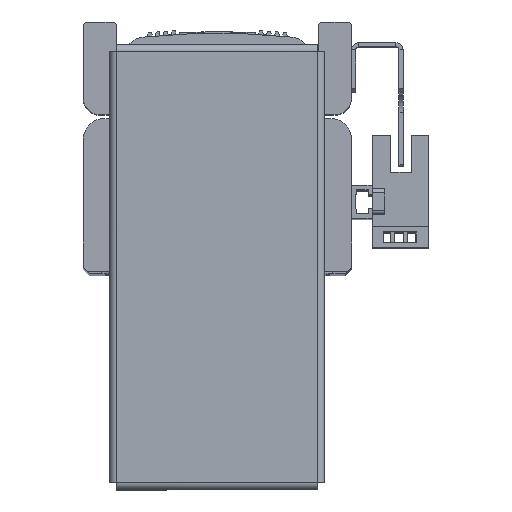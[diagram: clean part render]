
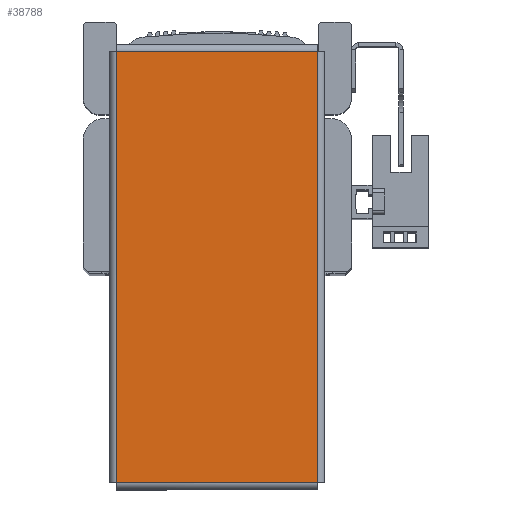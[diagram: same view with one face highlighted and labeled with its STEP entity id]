
A CAD part, top view. The second image highlights one B-rep face of the part: STEP entity #38788.
In plain terms, the highlighted planar face has unit normal (0, 0, 1) as drawn and (0, 0, -1) by its records, which use the part's own axes.
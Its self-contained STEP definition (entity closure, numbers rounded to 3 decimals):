
#1502 = AXIS2_PLACEMENT_3D ( 'NONE', #21986, #21997, #22007 ) ;
#3088 = VERTEX_POINT ( 'NONE', #27663 ) ;
#3095 = VERTEX_POINT ( 'NONE', #27684 ) ;
#3104 = VERTEX_POINT ( 'NONE', #27624 ) ;
#3112 = VERTEX_POINT ( 'NONE', #27647 ) ;
#9509 = EDGE_CURVE ( 'NONE', #3095, #3104, #34178, .T. ) ;
#9525 = EDGE_CURVE ( 'NONE', #3088, #3095, #34249, .T. ) ;
#9526 = EDGE_CURVE ( 'NONE', #3112, #3088, #34191, .T. ) ;
#9535 = EDGE_CURVE ( 'NONE', #3104, #3112, #34162, .T. ) ;
#16012 = ORIENTED_EDGE ( 'NONE', *, *, #9525, .T. ) ;
#16051 = ORIENTED_EDGE ( 'NONE', *, *, #9535, .T. ) ;
#16066 = ORIENTED_EDGE ( 'NONE', *, *, #9526, .T. ) ;
#16071 = ORIENTED_EDGE ( 'NONE', *, *, #9509, .T. ) ;
#19343 = FACE_OUTER_BOUND ( 'NONE', #22622, .T. ) ;
#21986 = CARTESIAN_POINT ( 'NONE',  ( 0., 0., -1. ) ) ;
#21997 = DIRECTION ( 'NONE',  ( 0., 0., 1. ) ) ;
#22007 = DIRECTION ( 'NONE',  ( 1., 0., 0. ) ) ;
#22015 = PLANE ( 'NONE',  #1502 ) ;
#22622 = EDGE_LOOP ( 'NONE', ( #16012, #16071, #16051, #16066 ) ) ;
#27624 = CARTESIAN_POINT ( 'NONE',  ( -52.263, -24.363, -1. ) ) ;
#27647 = CARTESIAN_POINT ( 'NONE',  ( -52.263, 24.363, -1. ) ) ;
#27663 = CARTESIAN_POINT ( 'NONE',  ( 52.263, 24.363, -1. ) ) ;
#27684 = CARTESIAN_POINT ( 'NONE',  ( 52.263, -24.363, -1. ) ) ;
#34162 = LINE ( 'NONE', #35773, #34218 ) ;
#34178 = LINE ( 'NONE', #35665, #34275 ) ;
#34191 = LINE ( 'NONE', #35709, #34264 ) ;
#34209 = VECTOR ( 'NONE', #35701, 1000. ) ;
#34218 = VECTOR ( 'NONE', #35744, 1000. ) ;
#34249 = LINE ( 'NONE', #35722, #34209 ) ;
#34264 = VECTOR ( 'NONE', #35710, 1000. ) ;
#34275 = VECTOR ( 'NONE', #35642, 1000. ) ;
#35642 = DIRECTION ( 'NONE',  ( -1., 0., 0. ) ) ;
#35665 = CARTESIAN_POINT ( 'NONE',  ( 52.293, -24.363, -1. ) ) ;
#35701 = DIRECTION ( 'NONE',  ( 0., -1., 0. ) ) ;
#35709 = CARTESIAN_POINT ( 'NONE',  ( -52.293, 24.363, -1. ) ) ;
#35710 = DIRECTION ( 'NONE',  ( 1., 0., 0. ) ) ;
#35722 = CARTESIAN_POINT ( 'NONE',  ( 52.263, 24.393, -1. ) ) ;
#35744 = DIRECTION ( 'NONE',  ( 0., 1., 0. ) ) ;
#35773 = CARTESIAN_POINT ( 'NONE',  ( -52.263, -24.393, -1. ) ) ;
#38788 = ADVANCED_FACE ( 'NONE', ( #19343 ), #22015, .F. ) ;
